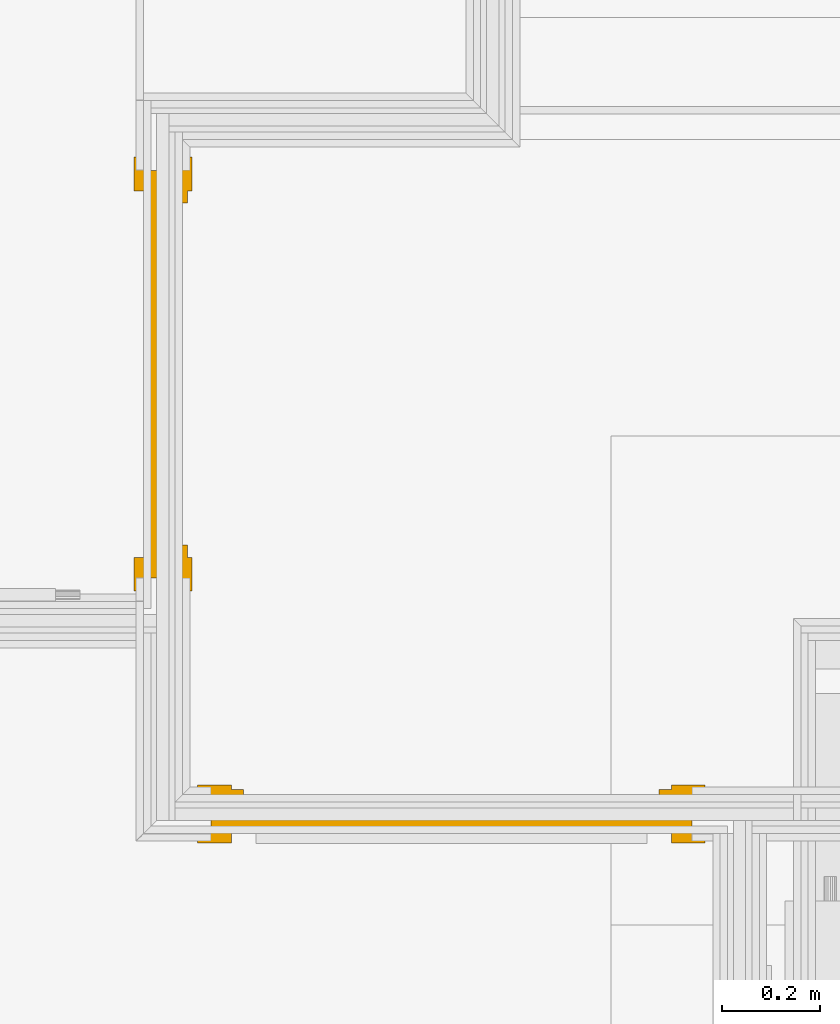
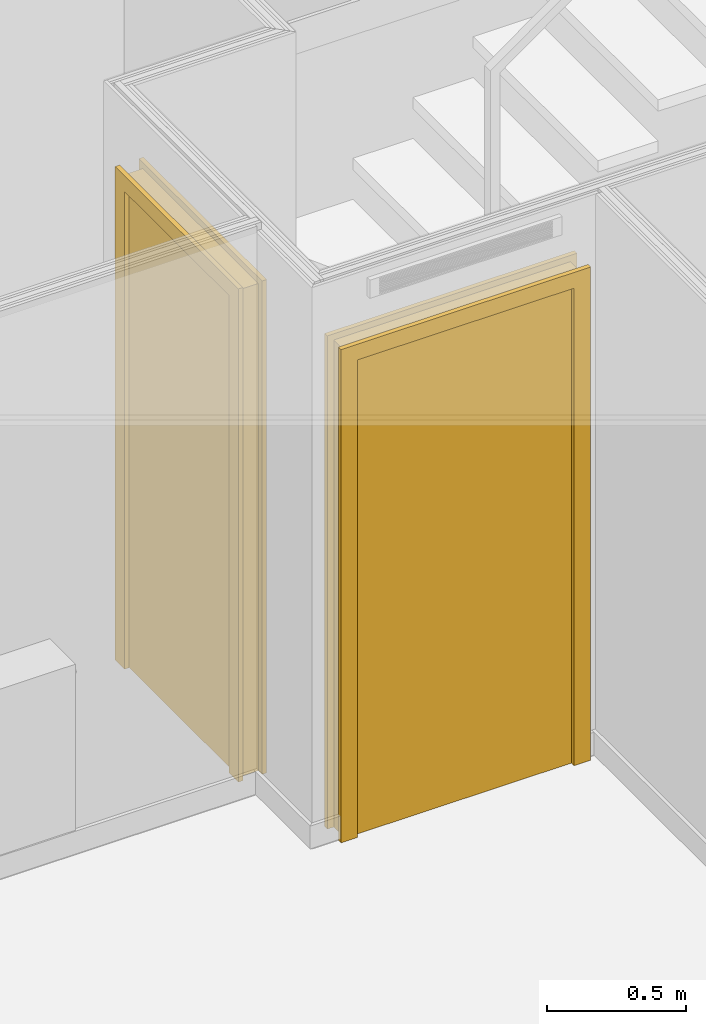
# One storey, part 96 of 169: 2 doors.
"""IFC2X3 building model written with IfcOpenShell, lengths in metres."""

from ifc_helpers import new_model, entity, si_unit, converted_unit, derived_unit, money_unit, direction, frame, origin_with_axes, place, context, subcontext, project, spatial, faceted_brep, material, type_object, element, save


model = new_model("IFC2X3")

# Units and contexts
model_context = context("Model", 3, precision=1e-05, world=origin_with_axes(), true_north=direction((0.0, 1.0)))
body_context = subcontext(model_context, "Body", "Model", "MODEL_VIEW", scale=1.0)
ifc_project = project(units=[si_unit("LENGTHUNIT", "METRE"), si_unit("AREAUNIT", "SQUARE_METRE"), si_unit("VOLUMEUNIT", "CUBIC_METRE"), si_unit("ABSORBEDDOSEUNIT", "GRAY"), si_unit("AMOUNTOFSUBSTANCEUNIT", "MOLE"), si_unit("DOSEEQUIVALENTUNIT", "SIEVERT"), si_unit("ELECTRICCAPACITANCEUNIT", "FARAD"), si_unit("ELECTRICCHARGEUNIT", "COULOMB"), si_unit("ELECTRICCONDUCTANCEUNIT", "SIEMENS"), si_unit("ELECTRICCURRENTUNIT", "AMPERE"), si_unit("ELECTRICRESISTANCEUNIT", "OHM"), si_unit("ELECTRICVOLTAGEUNIT", "VOLT"), si_unit("ENERGYUNIT", "JOULE"), si_unit("FORCEUNIT", "NEWTON"), si_unit("FREQUENCYUNIT", "HERTZ"), si_unit("ILLUMINANCEUNIT", "LUX"), si_unit("INDUCTANCEUNIT", "HENRY"), si_unit("LUMINOUSFLUXUNIT", "LUMEN"), si_unit("LUMINOUSINTENSITYUNIT", "CANDELA"), si_unit("MAGNETICFLUXDENSITYUNIT", "TESLA"), si_unit("MAGNETICFLUXUNIT", "WEBER"), si_unit("MASSUNIT", "GRAM"), converted_unit("PLANEANGLEUNIT", "degree", entity("IfcReal", 0.0174532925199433), si_unit("PLANEANGLEUNIT", "RADIAN"), dimensions=[0, 0, 0, 0, 0, 0, 0]), si_unit("POWERUNIT", "WATT"), si_unit("PRESSUREUNIT", "PASCAL"), si_unit("RADIOACTIVITYUNIT", "BECQUEREL"), si_unit("SOLIDANGLEUNIT", "STERADIAN"), si_unit("THERMODYNAMICTEMPERATUREUNIT", "KELVIN"), si_unit("TIMEUNIT", "SECOND"), derived_unit("ACCELERATIONUNIT", [(si_unit("LENGTHUNIT", "METRE"), 1), (si_unit("TIMEUNIT", "SECOND"), -2)]), derived_unit("ANGULARVELOCITYUNIT", [(converted_unit("PLANEANGLEUNIT", "degree", entity("IfcReal", 0.0174532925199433), si_unit("PLANEANGLEUNIT", "RADIAN"), dimensions=[0, 0, 0, 0, 0, 0, 0]), 1), (si_unit("TIMEUNIT", "SECOND"), -1)]), derived_unit("CURVATUREUNIT", [(converted_unit("PLANEANGLEUNIT", "degree", entity("IfcReal", 0.0174532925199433), si_unit("PLANEANGLEUNIT", "RADIAN"), dimensions=[0, 0, 0, 0, 0, 0, 0]), 1), (si_unit("LENGTHUNIT", "METRE"), -1)]), derived_unit("DYNAMICVISCOSITYUNIT", [(si_unit("PRESSUREUNIT", "PASCAL"), 1), (si_unit("TIMEUNIT", "SECOND"), 1)]), derived_unit("HEATFLUXDENSITYUNIT", [(si_unit("POWERUNIT", "WATT"), 1), (si_unit("LENGTHUNIT", "METRE"), -2)]), derived_unit("HEATINGVALUEUNIT", [(si_unit("ENERGYUNIT", "JOULE"), 1), (si_unit("MASSUNIT", "GRAM"), -1)]), derived_unit("INTEGERCOUNTRATEUNIT", [(si_unit("TIMEUNIT", "SECOND"), -1)]), derived_unit("IONCONCENTRATIONUNIT", [(si_unit("MASSUNIT", "GRAM"), 1), (si_unit("VOLUMEUNIT", "CUBIC_METRE"), -1)]), derived_unit("ISOTHERMALMOISTURECAPACITYUNIT", [(si_unit("VOLUMEUNIT", "CUBIC_METRE"), 1), (si_unit("MASSUNIT", "GRAM"), -1)]), derived_unit("KINEMATICVISCOSITYUNIT", [(si_unit("AREAUNIT", "SQUARE_METRE"), 1), (si_unit("TIMEUNIT", "SECOND"), -1)]), derived_unit("LINEARFORCEUNIT", [(si_unit("FORCEUNIT", "NEWTON"), 1), (si_unit("LENGTHUNIT", "METRE"), -1)]), derived_unit("LINEARMOMENTUNIT", [(si_unit("FORCEUNIT", "NEWTON"), 1), (si_unit("LENGTHUNIT", "METRE"), -1)]), derived_unit("LINEARSTIFFNESSUNIT", [(si_unit("FORCEUNIT", "NEWTON"), 1), (si_unit("LENGTHUNIT", "METRE"), -1)]), derived_unit("LINEARVELOCITYUNIT", [(si_unit("LENGTHUNIT", "METRE"), 1), (si_unit("TIMEUNIT", "SECOND"), -1)]), derived_unit("LUMINOUSINTENSITYDISTRIBUTIONUNIT", [(si_unit("LUMINOUSINTENSITYUNIT", "CANDELA"), 1), (si_unit("LUMINOUSFLUXUNIT", "LUMEN"), -1)]), derived_unit("MASSDENSITYUNIT", [(si_unit("MASSUNIT", "GRAM"), 1), (si_unit("VOLUMEUNIT", "CUBIC_METRE"), -1)]), derived_unit("MASSFLOWRATEUNIT", [(si_unit("MASSUNIT", "GRAM"), 1), (si_unit("TIMEUNIT", "SECOND"), -1)]), derived_unit("MASSPERLENGTHUNIT", [(si_unit("MASSUNIT", "GRAM"), 1), (si_unit("LENGTHUNIT", "METRE"), -1)]), derived_unit("MODULUSOFELASTICITYUNIT", [(si_unit("FORCEUNIT", "NEWTON"), 1), (si_unit("AREAUNIT", "SQUARE_METRE"), -1)]), derived_unit("MODULUSOFLINEARSUBGRADEREACTIONUNIT", [(si_unit("FORCEUNIT", "NEWTON"), 1), (si_unit("LENGTHUNIT", "METRE"), -2)]), derived_unit("MODULUSOFROTATIONALSUBGRADEREACTIONUNIT", [(si_unit("FORCEUNIT", "NEWTON"), 1), (si_unit("LENGTHUNIT", "METRE"), 1)]), derived_unit("MODULUSOFSUBGRADEREACTIONUNIT", [(si_unit("FORCEUNIT", "NEWTON"), 1), (si_unit("VOLUMEUNIT", "CUBIC_METRE"), -1)]), derived_unit("MOISTUREDIFFUSIVITYUNIT", [(si_unit("VOLUMEUNIT", "CUBIC_METRE"), 1), (si_unit("TIMEUNIT", "SECOND"), -1)]), derived_unit("MOLECULARWEIGHTUNIT", [(si_unit("MASSUNIT", "GRAM"), 1), (si_unit("AMOUNTOFSUBSTANCEUNIT", "MOLE"), -1)]), derived_unit("PLANARFORCEUNIT", [(si_unit("FORCEUNIT", "NEWTON"), 1), (si_unit("LENGTHUNIT", "METRE"), -2)]), derived_unit("ROTATIONALFREQUENCYUNIT", [(si_unit("TIMEUNIT", "SECOND"), -1)]), derived_unit("ROTATIONALMASSUNIT", [(si_unit("MASSUNIT", "GRAM"), 1), (si_unit("LENGTHUNIT", "METRE"), 2)]), derived_unit("ROTATIONALSTIFFNESSUNIT", [(si_unit("FORCEUNIT", "NEWTON"), 1), (si_unit("LENGTHUNIT", "METRE"), 1), (converted_unit("PLANEANGLEUNIT", "degree", entity("IfcReal", 0.0174532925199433), si_unit("PLANEANGLEUNIT", "RADIAN"), dimensions=[0, 0, 0, 0, 0, 0, 0]), -1)]), derived_unit("SECTIONAREAINTEGRALUNIT", [(si_unit("LENGTHUNIT", "METRE"), 5)]), derived_unit("SECTIONMODULUSUNIT", [(si_unit("LENGTHUNIT", "METRE"), 3)]), derived_unit("SHEARMODULUSUNIT", [(si_unit("FORCEUNIT", "NEWTON"), 1), (si_unit("AREAUNIT", "SQUARE_METRE"), -1)]), derived_unit("SOUNDPOWERUNIT", [(si_unit("ENERGYUNIT", "JOULE"), 1), (si_unit("TIMEUNIT", "SECOND"), -1)]), derived_unit("SPECIFICHEATCAPACITYUNIT", [(si_unit("FORCEUNIT", "NEWTON"), 1), (si_unit("MASSUNIT", "GRAM"), -1), (si_unit("THERMODYNAMICTEMPERATUREUNIT", "KELVIN"), -1)]), derived_unit("TEMPERATUREGRADIENTUNIT", [(si_unit("THERMODYNAMICTEMPERATUREUNIT", "KELVIN"), 1), (si_unit("LENGTHUNIT", "METRE"), -1)]), derived_unit("THERMALADMITTANCEUNIT", [(si_unit("POWERUNIT", "WATT"), 1), (si_unit("AREAUNIT", "SQUARE_METRE"), -1), (si_unit("THERMODYNAMICTEMPERATUREUNIT", "KELVIN"), -1)]), derived_unit("THERMALCONDUCTANCEUNIT", [(si_unit("POWERUNIT", "WATT"), 1), (si_unit("LENGTHUNIT", "METRE"), -1), (si_unit("THERMODYNAMICTEMPERATUREUNIT", "KELVIN"), -1)]), derived_unit("THERMALEXPANSIONCOEFFICIENTUNIT", [(si_unit("THERMODYNAMICTEMPERATUREUNIT", "KELVIN"), -1)]), derived_unit("THERMALRESISTANCEUNIT", [(si_unit("AREAUNIT", "SQUARE_METRE"), 1), (si_unit("POWERUNIT", "WATT"), -1)]), derived_unit("THERMALTRANSMITTANCEUNIT", [(si_unit("POWERUNIT", "WATT"), 1), (si_unit("AREAUNIT", "SQUARE_METRE"), -1), (si_unit("THERMODYNAMICTEMPERATUREUNIT", "KELVIN"), -1)]), derived_unit("TORQUEUNIT", [(si_unit("FORCEUNIT", "NEWTON"), 1), (si_unit("LENGTHUNIT", "METRE"), 1)]), derived_unit("VAPORPERMEABILITYUNIT", [(si_unit("MASSUNIT", "GRAM"), 1), (si_unit("TIMEUNIT", "SECOND"), -1)]), derived_unit("VOLUMETRICFLOWRATEUNIT", [(si_unit("VOLUMEUNIT", "CUBIC_METRE"), 1), (si_unit("TIMEUNIT", "SECOND"), -1)]), derived_unit("WARPINGCONSTANTUNIT", [(si_unit("LENGTHUNIT", "METRE"), 6)]), derived_unit("WARPINGMOMENTUNIT", [(si_unit("FORCEUNIT", "NEWTON"), 1), (si_unit("LENGTHUNIT", "METRE"), 2)]), money_unit("GBP")], contexts=[model_context])

# Site, building, storey, space
site_placement = place(None, origin_with_axes())
site = spatial("IfcSite", under=ifc_project, at=site_placement, Name="Site", CompositionType="ELEMENT")
building_placement = place(site_placement, origin_with_axes())
building = spatial("IfcBuilding", under=site, at=building_placement, Name="Building01", CompositionType="ELEMENT")
storey_placement = place(building_placement, frame((0.0, 0.0, 5.15), z_axis=(0.0, 0.0, 1.0), x_axis=(1.0, 0.0, 0.0)))
storey = spatial("IfcBuildingStorey", under=building, at=storey_placement, Name="1F", CompositionType="ELEMENT", Elevation=5.15)
space_placement = place(storey_placement, frame((12.175, 4.189428, 9.86), z_axis=(0.0, 0.0, 1.0), x_axis=(0.0, 1.0, 0.0)))
space = spatial("IfcSpace", under=storey, at=space_placement, Name="25", CompositionType="ELEMENT", InteriorOrExteriorSpace="NOTDEFINED")

# Doors
ifc_material = material(Name="A_BSUK_Doors")
door_style = type_object("IfcDoorStyle", Name="A-Doors-SingleFlush", ConstructionType="USERDEFINED", OperationType="SINGLE_SWING_LEFT", ParameterTakesPrecedence=False, Sizeable=False)
door_1_placement = place(storey_placement, frame((3.039976, 5.344976, 9.83), z_axis=(0.0, 0.0, 1.0), x_axis=(0.0, 1.0, 0.0)))
element("IfcDoor", 1, at=door_1_placement, inside=space, type_object=door_style, material=ifc_material, Name="4.19", ObjectType="A-Doors-SingleFlush", OverallHeight=2.16900000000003, OverallWidth=0.888000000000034, context=body_context, shape_type="Brep", body=[
    faceted_brep([(0.0, -0.099, 2.1), (0.75, -0.099, 2.1), (0.75, -0.099, 0.0), (0.819, -0.099, 0.0), (0.819, -0.099, 2.169), (-0.069, -0.099, 2.169), (-0.069, -0.099, 0.0), (0.0, -0.099, 0.0), (0.819, -0.08, 2.169), (0.819, -0.08, 0.0), (-0.069, -0.08, 0.0), (-0.069, -0.08, 2.169), (-0.042, -0.08, 0.0), (-0.042, 0.0, 0.0), (-0.069, 0.0, 0.0), (-0.069, 0.019, 0.0), (0.0, 0.019, 0.0), (0.0, 0.019, 2.1), (0.75, 0.019, 2.1), (-0.069, 0.019, 2.169), (0.819, 0.019, 2.169), (0.819, 0.019, 0.0), (0.75, 0.019, 0.0), (-0.069, 0.0, 2.169), (-0.042, 0.0, 2.142), (-0.042, -0.08, 2.142), (0.792, 0.0, 2.142), (0.792, -0.08, 2.142), (0.792, -0.08, 0.0), (0.792, 0.0, 0.0), (0.819, 0.0, 0.0), (0.819, 0.0, 2.169)], [[[0, 1, 2, 3, 4, 5, 6, 7]], [[8, 4, 3, 9]], [[10, 6, 5, 11]], [[11, 5, 4, 8]], [[7, 6, 10, 12, 13, 14, 15, 16]], [[7, 16, 17, 0]], [[0, 17, 18, 1]], [[17, 16, 15, 19, 20, 21, 22, 18]], [[1, 18, 22, 2]], [[14, 23, 19, 15]], [[24, 13, 12, 25]], [[26, 24, 25, 27]], [[11, 8, 9, 28, 27, 25, 12, 10]], [[27, 28, 29, 26]], [[26, 29, 30, 31, 23, 14, 13, 24]], [[22, 21, 30, 29, 28, 9, 3, 2]], [[30, 21, 20, 31]], [[31, 20, 19, 23]]]),
    faceted_brep([(0.75, -0.09, 0.0), (0.75, -0.04, 0.0), (0.75, -0.04, 2.1), (0.75, -0.09, 2.1), (0.025, -0.09, 2.075), (0.725, -0.09, 2.075), (0.725, -0.09, 0.0), (0.0, -0.09, 2.1), (0.0, -0.09, 0.0), (0.025, -0.09, 0.0), (0.0, -0.04, 0.0), (0.025, -0.04, 0.0), (0.0, -0.04, 2.1), (0.025, -0.04, 2.075), (0.725, -0.04, 0.0), (0.725, -0.04, 2.075)], [[[0, 1, 2, 3]], [[4, 5, 6, 0, 3, 7, 8, 9]], [[9, 8, 10, 11]], [[3, 2, 12, 7]], [[7, 12, 10, 8]], [[13, 11, 10, 12, 2, 1, 14, 15]], [[5, 15, 14, 6]], [[14, 1, 0, 6]], [[9, 11, 13, 4]], [[4, 13, 15, 5]]]),
    faceted_brep([(0.0, -0.04, 2.1), (0.0, 0.0, 2.1), (0.0, 0.0, 0.0), (0.0, -0.04, 0.0), (0.75, -0.04, 0.0), (0.75, 0.0, 0.0), (0.75, 0.0, 2.1), (0.75, -0.04, 2.1)], [[[0, 1, 2, 3]], [[4, 5, 6, 7]], [[3, 2, 5, 4]], [[3, 4, 7, 0]], [[7, 6, 1, 0]], [[1, 6, 5, 2]]]),
])
door_2_placement = place(storey_placement, frame((4.119976, 4.779939, 9.83), z_axis=(0.0, 0.0, 1.0), x_axis=(-1.0, 0.0, 0.0)))
element("IfcDoor", 2, at=door_2_placement, inside=space, type_object=door_style, material=ifc_material, Name="4.20", ObjectType="A-Doors-SingleFlush", OverallHeight=2.16900000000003, OverallWidth=1.03800000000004, context=body_context, shape_type="Brep", body=[
    faceted_brep([(0.0, -0.099, 2.1), (0.9, -0.099, 2.1), (0.9, -0.099, 0.0), (0.969, -0.099, 0.0), (0.969, -0.099, 2.169), (-0.069, -0.099, 2.169), (-0.069, -0.099, 0.0), (0.0, -0.099, 0.0), (0.969, -0.08, 2.169), (0.969, -0.08, 0.0), (-0.069, -0.08, 0.0), (-0.069, -0.08, 2.169), (-0.042, -0.08, 0.0), (-0.042, 0.0, 0.0), (-0.069, 0.0, 0.0), (-0.069, 0.019, 0.0), (0.0, 0.019, 0.0), (0.0, 0.019, 2.1), (0.9, 0.019, 2.1), (-0.069, 0.019, 2.169), (0.969, 0.019, 2.169), (0.969, 0.019, 0.0), (0.9, 0.019, 0.0), (-0.069, 0.0, 2.169), (-0.042, 0.0, 2.142), (-0.042, -0.08, 2.142), (0.942, 0.0, 2.142), (0.942, -0.08, 2.142), (0.942, -0.08, 0.0), (0.942, 0.0, 0.0), (0.969, 0.0, 0.0), (0.969, 0.0, 2.169)], [[[0, 1, 2, 3, 4, 5, 6, 7]], [[8, 4, 3, 9]], [[10, 6, 5, 11]], [[11, 5, 4, 8]], [[7, 6, 10, 12, 13, 14, 15, 16]], [[7, 16, 17, 0]], [[0, 17, 18, 1]], [[17, 16, 15, 19, 20, 21, 22, 18]], [[1, 18, 22, 2]], [[14, 23, 19, 15]], [[24, 13, 12, 25]], [[26, 24, 25, 27]], [[11, 8, 9, 28, 27, 25, 12, 10]], [[27, 28, 29, 26]], [[26, 29, 30, 31, 23, 14, 13, 24]], [[22, 21, 30, 29, 28, 9, 3, 2]], [[30, 21, 20, 31]], [[31, 20, 19, 23]]]),
    faceted_brep([(0.9, -0.09, 0.0), (0.9, -0.04, 0.0), (0.9, -0.04, 2.1), (0.9, -0.09, 2.1), (0.025, -0.09, 2.075), (0.875, -0.09, 2.075), (0.875, -0.09, 0.0), (0.0, -0.09, 2.1), (0.0, -0.09, 0.0), (0.025, -0.09, 0.0), (0.0, -0.04, 0.0), (0.025, -0.04, 0.0), (0.0, -0.04, 2.1), (0.025, -0.04, 2.075), (0.875, -0.04, 0.0), (0.875, -0.04, 2.075)], [[[0, 1, 2, 3]], [[4, 5, 6, 0, 3, 7, 8, 9]], [[9, 8, 10, 11]], [[3, 2, 12, 7]], [[7, 12, 10, 8]], [[13, 11, 10, 12, 2, 1, 14, 15]], [[5, 15, 14, 6]], [[14, 1, 0, 6]], [[9, 11, 13, 4]], [[4, 13, 15, 5]]]),
    faceted_brep([(0.0, -0.04, 2.1), (0.0, 0.0, 2.1), (0.0, 0.0, 0.0), (0.0, -0.04, 0.0), (0.9, -0.04, 0.0), (0.9, 0.0, 0.0), (0.9, 0.0, 2.1), (0.9, -0.04, 2.1)], [[[0, 1, 2, 3]], [[4, 5, 6, 7]], [[3, 2, 5, 4]], [[3, 4, 7, 0]], [[7, 6, 1, 0]], [[1, 6, 5, 2]]]),
])

save(model, "model.ifc")
